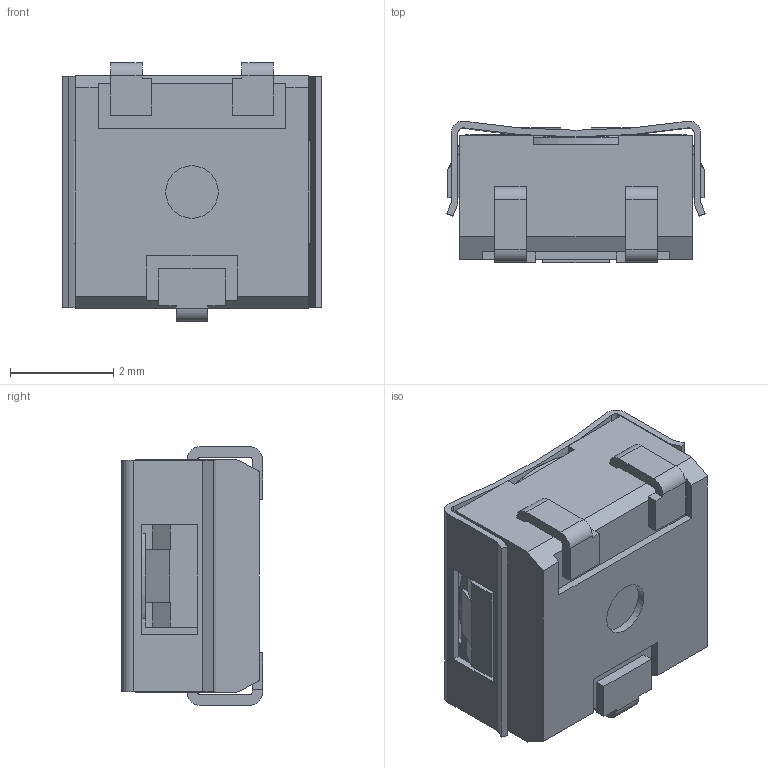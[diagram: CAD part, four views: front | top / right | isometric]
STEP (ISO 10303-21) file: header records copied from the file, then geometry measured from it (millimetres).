
FILE_DESCRIPTION(/* description */ ('M70*T637rivetÃ©'),/* implementation_level */ '2;1');
FILE_NAME(/* name */ 'TS4YJ',/* time_stamp */ '2025-06-19T09:09:42+02:00',/* author */ ('N. Lapouge'),/* organization */ ('Vishay'),/* preprocessor_version */ 'ST-DEVELOPER v19.4',/* originating_system */ 'Solid Edge',/* authorisation */ 'Unknown');
FILE_SCHEMA (('AUTOMOTIVE_DESIGN {1 0 10303 214 3 1 1}'));
Length unit declared in the file: millimetre
Products named in the file (2): TS4YJ
Assembly tree (1 placements, depth 2):
  TS4YJ
    TS4YJ
Bounding box: 5 x 2.73 x 5 mm (x, y, z)
Volume: 52.3 mm3; surface area: 150.5 mm2
Topology: 1 solids, 1 shells, 398 faces, 1134 edges, 752 vertices
Faces by surface type: plane 321, cylinder 64, cone 8, bspline 5
Entity records: 13287 total; most frequent: CARTESIAN_POINT 2934, ORIENTED_EDGE 2268, DIRECTION 1975, EDGE_CURVE 1134, LINE 771, VECTOR 771, VERTEX_POINT 752, AXIS2_PLACEMENT_3D 602
